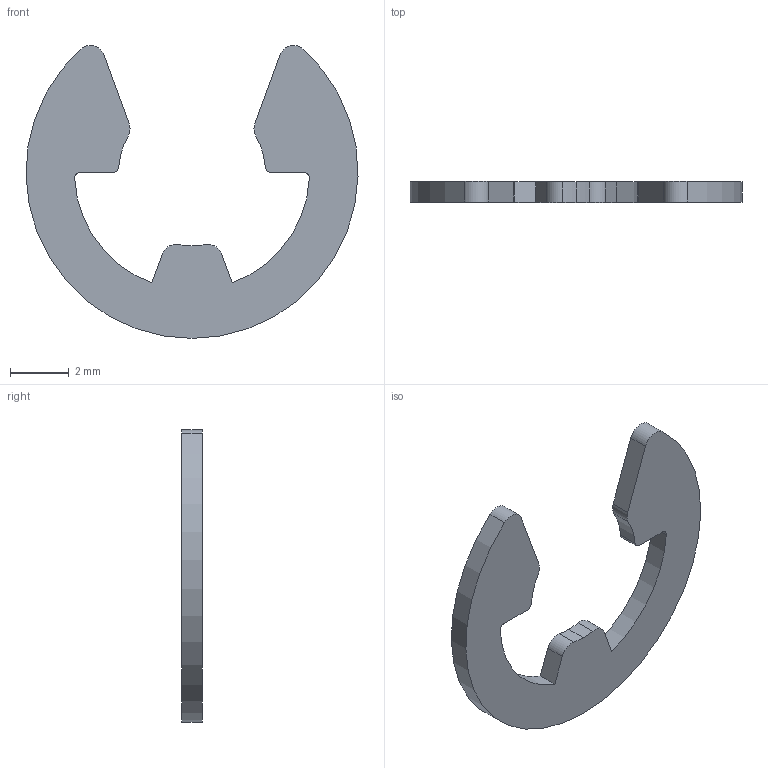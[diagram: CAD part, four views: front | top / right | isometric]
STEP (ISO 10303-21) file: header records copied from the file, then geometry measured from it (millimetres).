
FILE_DESCRIPTION (( 'STEP AP203' ), '1' );
FILE_NAME ('P0382.050-PH.step', '2019-07-25T21:00:12', ( '' ), ( '' ), 'SwSTEP 2.0', 'SolidWorks 2017', '' );
FILE_SCHEMA (( 'CONFIG_CONTROL_DESIGN' ));
Length unit declared in the file: millimetre
Products named in the file (1): P0382.050-PH
Bounding box: 11.3 x 0.7 x 9.96 mm (x, y, z)
Volume: 35.1 mm3; surface area: 138.3 mm2
Topology: 1 solids, 1 shells, 26 faces, 72 edges, 48 vertices
Faces by surface type: cylinder 18, plane 8
Entity records: 929 total; most frequent: DIRECTION 162, CARTESIAN_POINT 147, ORIENTED_EDGE 144, EDGE_CURVE 72, AXIS2_PLACEMENT_3D 63, VERTEX_POINT 48, VECTOR 36, CIRCLE 36
